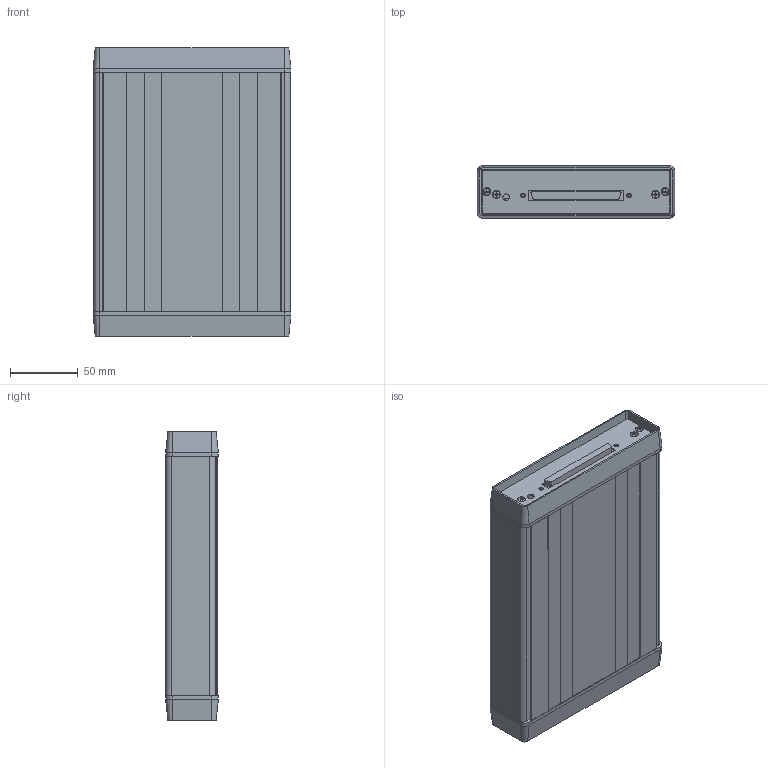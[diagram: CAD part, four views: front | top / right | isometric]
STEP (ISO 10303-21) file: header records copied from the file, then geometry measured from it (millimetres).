
FILE_DESCRIPTION((''),'2;1');
FILE_NAME('CU_USB_DAQPAD_MASS_SMALL','2007-08-28T',('jpearson'),(''),'PRO/ENGINEER BY PARAMETRIC TECHNOLOGY CORPORATION, 2006080','PRO/ENGINEER BY PARAMETRIC TECHNOLOGY CORPORATION, 2006080','');
FILE_SCHEMA(('CONFIG_CONTROL_DESIGN'));
Length unit declared in the file: inch
Products named in the file (1): CU_USB_DAQPAD_MASS_SMALL
Bounding box: 146 x 38.86 x 212.7 mm (x, y, z)
Volume: 161148.8 mm3; surface area: 208881.6 mm2
Topology: 4 solids, 4 shells, 1011 faces, 2746 edges, 1605 vertices
Faces by surface type: plane 583, bspline 196, cylinder 188, cone 20, torus 14, sphere 10
Entity records: 34538 total; most frequent: CARTESIAN_POINT 10733, ORIENTED_EDGE 5132, DIRECTION 4452, EDGE_CURVE 2566, VERTEX_POINT 1776, VECTOR 1650, LINE 1650, AXIS2_PLACEMENT_3D 1401
